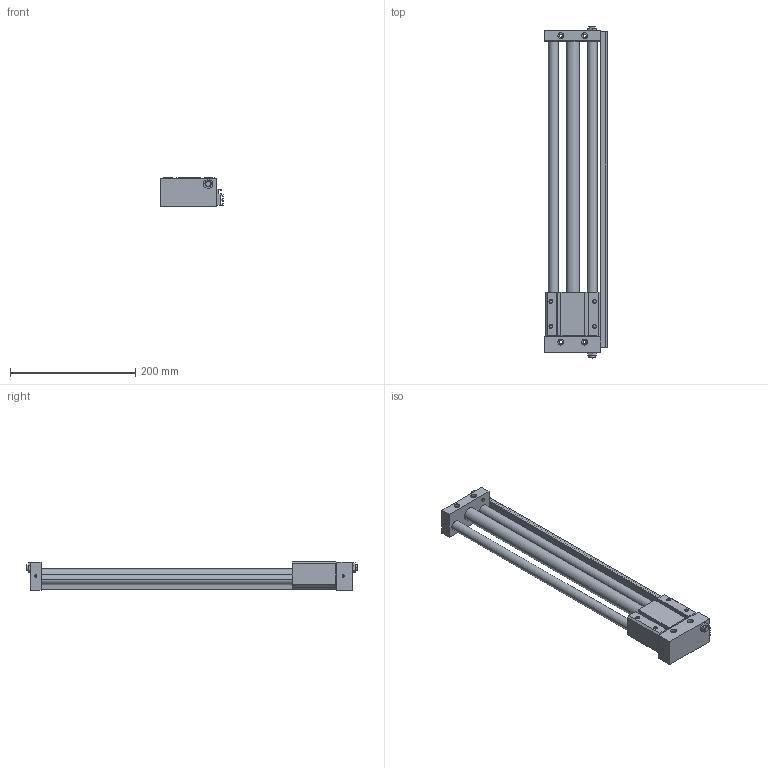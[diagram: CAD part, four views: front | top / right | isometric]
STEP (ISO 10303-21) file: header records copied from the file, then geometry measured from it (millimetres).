
FILE_DESCRIPTION((''),'2;1');
FILE_NAME('C:\Documents and Settings\Administrator\桌面\GYS\GYS20\GYSR20X400.stp','2012-03-06T20:21:28',('Administrator'),(''),'Autodesk Inventor 8','Autodesk Inventor 8','');
FILE_SCHEMA(('AUTOMOTIVE_DESIGN { 1 0 10303 214 1 1 1 1 }'));
Length unit declared in the file: millimetre
Products named in the file (3): GYSR20X400; GYS20X400; GYS20160X400
Assembly tree (2 placements, depth 2):
  GYSR20X400
    GYS20X400
    GYS20160X400
Bounding box: 100.5 x 531 x 46 mm (x, y, z)
Volume: 804081.3 mm3; surface area: 182903.5 mm2
Topology: 2 solids, 2 shells, 243 faces, 626 edges, 408 vertices
Faces by surface type: plane 133, cylinder 76, cone 28, bspline 6
Entity records: 7564 total; most frequent: CARTESIAN_POINT 1356, DIRECTION 1306, ORIENTED_EDGE 1252, EDGE_CURVE 626, AXIS2_PLACEMENT_3D 438, VECTOR 430, LINE 430, VERTEX_POINT 408
